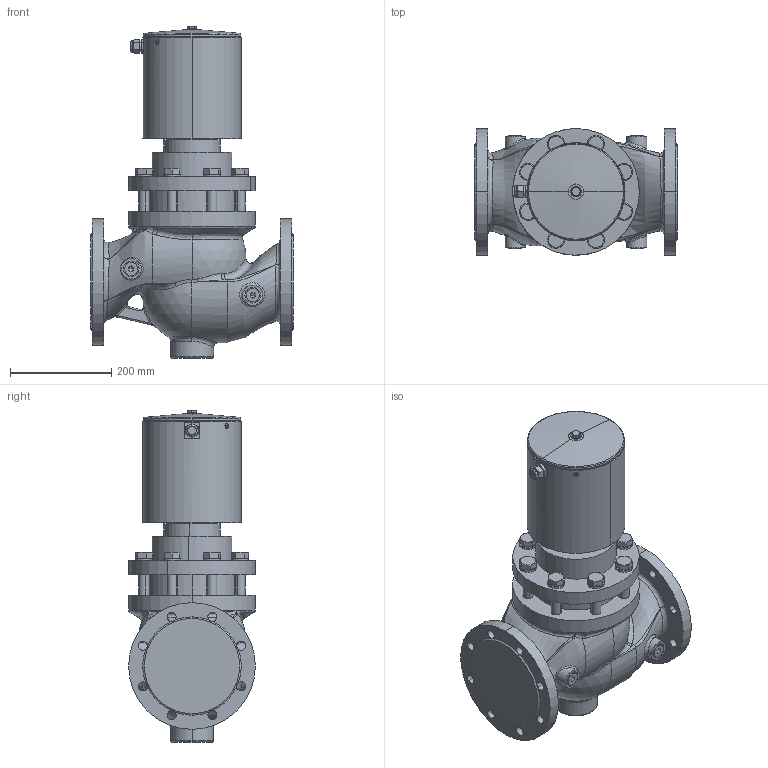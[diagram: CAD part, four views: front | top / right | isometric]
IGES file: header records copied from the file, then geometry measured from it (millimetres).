
Global section: file name: No Iges File Name specified; native system: AutoDesk Inventor R12.0; preprocessor: AutoDesk Inventor Iges Exporter R12.0; date: 20091111.150842; units: millimetre
Bounding box: 400 x 250 x 655.4 mm (x, y, z)
Volume: 24524218.9 mm3; surface area: 865602.7 mm2
Topology: 1 solids, 1 shells, 526 faces, 1342 edges, 835 vertices
Faces by surface type: plane 182, bspline 121, cylinder 111, cone 68, revolution 32, torus 10, sphere 2
